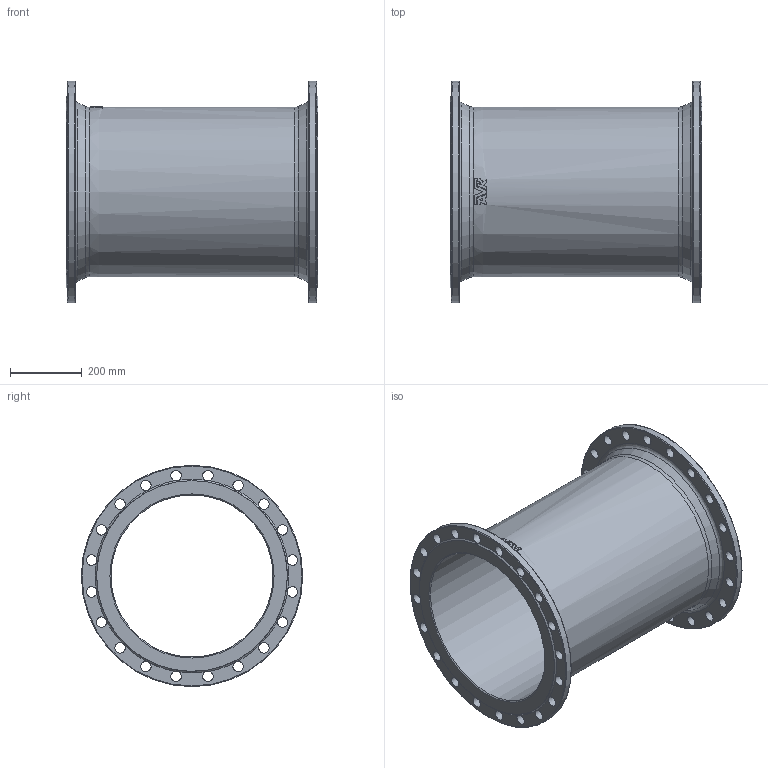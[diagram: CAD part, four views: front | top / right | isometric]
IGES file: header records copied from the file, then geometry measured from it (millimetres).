
Start section: SolidWorks IGES file using analytic representation for surfaces
Global section: file name: \\avksan2\techshare\PBM outline export from Enovia\O_712_5010_DN450_0X_REV01.igs; native system: SolidWorks 2019; preprocessor: SolidWorks 2019; author: pbm; date: 211203.111423; units: millimetre
Bounding box: 700 x 615 x 615 mm (x, y, z)
Surface area: 2535726 mm2 (no closed solid volume)
Topology: 0 solids, 0 shells, 105 faces, 692 edges, 633 vertices
Faces by surface type: revolution 62, bspline 43
